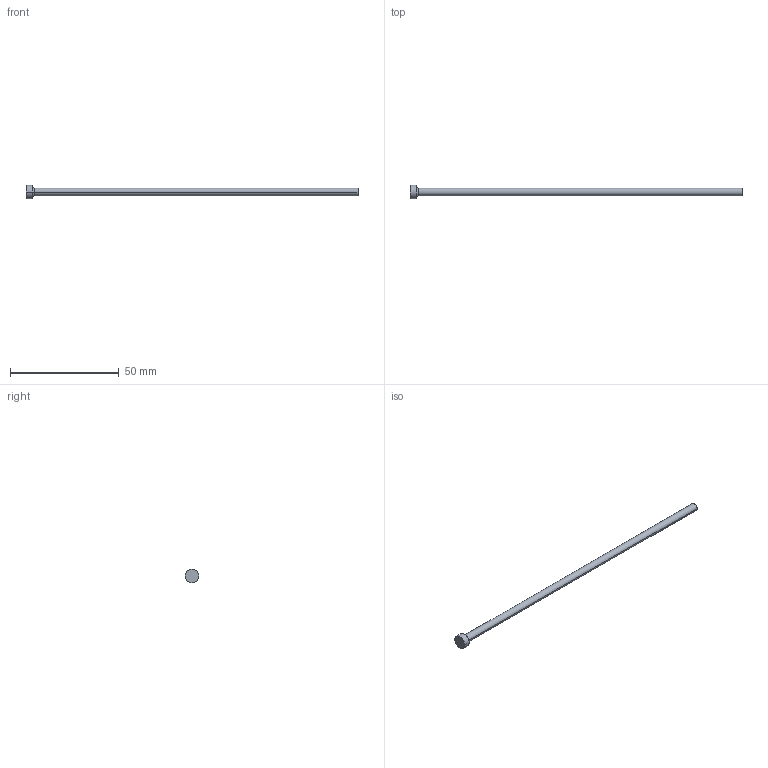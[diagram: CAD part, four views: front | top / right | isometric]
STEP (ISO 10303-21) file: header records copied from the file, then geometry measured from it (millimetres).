
FILE_DESCRIPTION (( 'STEP AP214' ), '1' );
FILE_NAME ('P10-6.STEP', '2020-03-11T17:36:57', ( '' ), ( '' ), 'SwSTEP 2.0', 'SolidWorks 2018', '' );
FILE_SCHEMA (( 'AUTOMOTIVE_DESIGN' ));
Length unit declared in the file: inch
Products named in the file (1): P10-6
Bounding box: 152.4 x 6.35 x 6.35 mm (x, y, z)
Volume: 1590.8 mm3; surface area: 1791.8 mm2
Topology: 1 solids, 1 shells, 13 faces, 24 edges, 14 vertices
Faces by surface type: cone 4, cylinder 4, plane 3, torus 2
Entity records: 366 total; most frequent: DIRECTION 68, CARTESIAN_POINT 52, ORIENTED_EDGE 48, AXIS2_PLACEMENT_3D 30, EDGE_CURVE 24, CIRCLE 16, VERTEX_POINT 14, EDGE_LOOP 14
